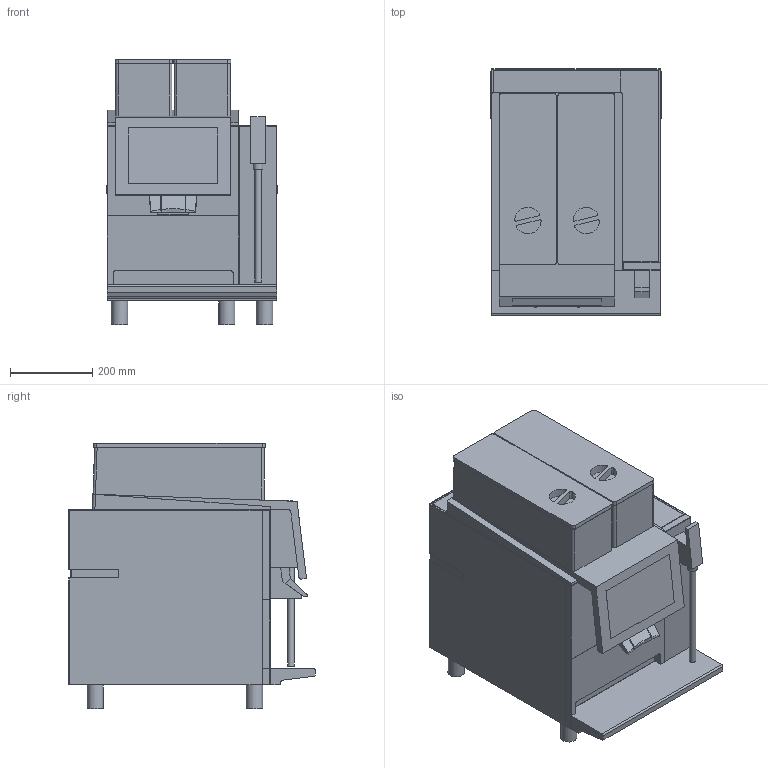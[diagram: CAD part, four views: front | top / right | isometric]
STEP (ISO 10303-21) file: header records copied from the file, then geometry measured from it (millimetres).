
FILE_DESCRIPTION(/* description */ ('Unknown'),/* implementation_level */ '2;1');
FILE_NAME(/* name */ 'HM_BW4-CTMplus',/* time_stamp */ '2026-08-18T06:12:06+02:00',/* author */ ('Unknown'),/* organization */ ('Unknown'),/* preprocessor_version */ 'ST-DEVELOPER v20',/* originating_system */ 'Solid Edge',/* authorisation */ 'Unknown');
FILE_SCHEMA (('AUTOMOTIVE_DESIGN {1 0 10303 214 3 1 1}'));
Length unit declared in the file: millimetre
Products named in the file (1): HM_BW4-CTMplus
Bounding box: 413.3 x 599.39 x 645.65 mm (x, y, z)
Volume: 109195344.4 mm3; surface area: 1914986.1 mm2
Topology: 1 solids, 1 shells, 287 faces, 780 edges, 501 vertices
Faces by surface type: plane 211, cylinder 72, sphere 4
Full cylindrical faces by diameter (mm): 16 x1, 24 x1, 40 x6
Entity records: 10926 total; most frequent: CARTESIAN_POINT 1549, ORIENTED_EDGE 1528, DIRECTION 1502, EDGE_CURVE 764, LINE 602, VECTOR 602, VERTEX_POINT 497, AXIS2_PLACEMENT_3D 450
